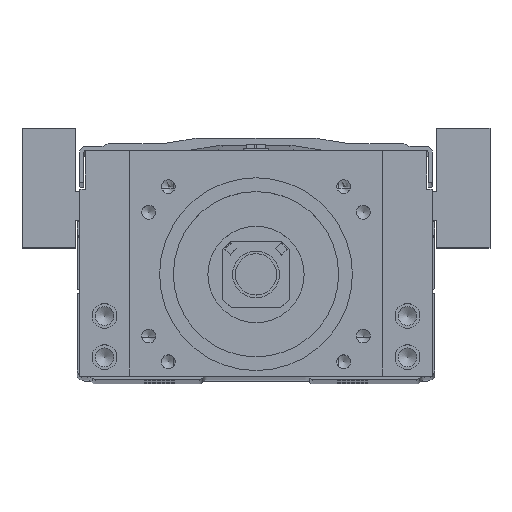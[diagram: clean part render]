
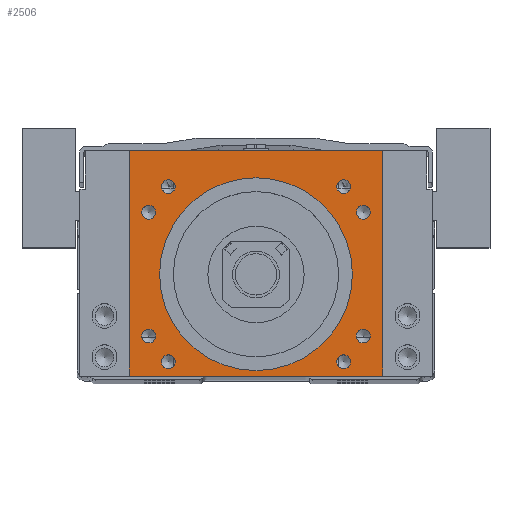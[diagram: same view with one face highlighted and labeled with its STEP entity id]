
A CAD part, top view. The second image highlights one B-rep face of the part: STEP entity #2506.
In plain terms, the highlighted planar face has unit normal (0, 0, 1).
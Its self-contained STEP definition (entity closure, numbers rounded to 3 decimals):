
#2506=ADVANCED_FACE('',(#7135,#7136,#7137,#7138,#7139,#7140,#7141,#7142,
#7143,#7144),#3620,.T.);
#3620=PLANE('',#19326);
#4271=LINE('',#26299,#5690);
#4343=LINE('',#26512,#5762);
#4348=LINE('',#26520,#5767);
#4353=LINE('',#26529,#5772);
#5690=VECTOR('',#21157,1.);
#5762=VECTOR('',#21313,1.);
#5767=VECTOR('',#21324,1.);
#5772=VECTOR('',#21331,1.);
#7135=FACE_BOUND('',#8159,.T.);
#7136=FACE_BOUND('',#8160,.T.);
#7137=FACE_BOUND('',#8161,.T.);
#7138=FACE_BOUND('',#8162,.T.);
#7139=FACE_BOUND('',#8163,.T.);
#7140=FACE_BOUND('',#8164,.T.);
#7141=FACE_BOUND('',#8165,.T.);
#7142=FACE_BOUND('',#8166,.T.);
#7143=FACE_BOUND('',#8167,.T.);
#7144=FACE_BOUND('',#8168,.T.);
#8159=EDGE_LOOP('',(#9932,#9933,#9934,#9935));
#8160=EDGE_LOOP('',(#9936));
#8161=EDGE_LOOP('',(#9937));
#8162=EDGE_LOOP('',(#9938));
#8163=EDGE_LOOP('',(#9939));
#8164=EDGE_LOOP('',(#9940));
#8165=EDGE_LOOP('',(#9941));
#8166=EDGE_LOOP('',(#9942));
#8167=EDGE_LOOP('',(#9943));
#8168=EDGE_LOOP('',(#9944));
#9932=ORIENTED_EDGE('',*,*,#16350,.T.);
#9933=ORIENTED_EDGE('',*,*,#16244,.T.);
#9934=ORIENTED_EDGE('',*,*,#16345,.T.);
#9935=ORIENTED_EDGE('',*,*,#16355,.T.);
#9936=ORIENTED_EDGE('',*,*,#16365,.F.);
#9937=ORIENTED_EDGE('',*,*,#16366,.T.);
#9938=ORIENTED_EDGE('',*,*,#16367,.T.);
#9939=ORIENTED_EDGE('',*,*,#16368,.F.);
#9940=ORIENTED_EDGE('',*,*,#16364,.F.);
#9941=ORIENTED_EDGE('',*,*,#16369,.T.);
#9942=ORIENTED_EDGE('',*,*,#16370,.T.);
#9943=ORIENTED_EDGE('',*,*,#16371,.T.);
#9944=ORIENTED_EDGE('',*,*,#16372,.T.);
#14465=VERTEX_POINT('',#26298);
#14466=VERTEX_POINT('',#26300);
#14555=VERTEX_POINT('',#26510);
#14557=VERTEX_POINT('',#26521);
#14563=VERTEX_POINT('',#26547);
#14564=VERTEX_POINT('',#26550);
#14565=VERTEX_POINT('',#26552);
#14566=VERTEX_POINT('',#26554);
#14567=VERTEX_POINT('',#26556);
#14568=VERTEX_POINT('',#26558);
#14569=VERTEX_POINT('',#26560);
#14570=VERTEX_POINT('',#26562);
#14571=VERTEX_POINT('',#26564);
#16244=EDGE_CURVE('',#14466,#14465,#4271,.T.);
#16345=EDGE_CURVE('',#14465,#14555,#4343,.T.);
#16350=EDGE_CURVE('',#14557,#14466,#4348,.T.);
#16355=EDGE_CURVE('',#14555,#14557,#4353,.T.);
#16364=EDGE_CURVE('',#14563,#14563,#18576,.T.);
#16365=EDGE_CURVE('',#14564,#14564,#18577,.T.);
#16366=EDGE_CURVE('',#14565,#14565,#18578,.T.);
#16367=EDGE_CURVE('',#14566,#14566,#18579,.T.);
#16368=EDGE_CURVE('',#14567,#14567,#18580,.T.);
#16369=EDGE_CURVE('',#14568,#14568,#18581,.T.);
#16370=EDGE_CURVE('',#14569,#14569,#18582,.T.);
#16371=EDGE_CURVE('',#14570,#14570,#18583,.T.);
#16372=EDGE_CURVE('',#14571,#14571,#18584,.T.);
#18576=CIRCLE('',#19316,35.015);
#18577=CIRCLE('',#19318,2.5);
#18578=CIRCLE('',#19319,2.5);
#18579=CIRCLE('',#19320,2.5);
#18580=CIRCLE('',#19321,2.5);
#18581=CIRCLE('',#19322,2.5);
#18582=CIRCLE('',#19323,2.5);
#18583=CIRCLE('',#19324,2.5);
#18584=CIRCLE('',#19325,2.5);
#19316=AXIS2_PLACEMENT_3D('',#26546,#21352,#21353);
#19318=AXIS2_PLACEMENT_3D('',#26549,#21356,#21357);
#19319=AXIS2_PLACEMENT_3D('',#26551,#21358,#21359);
#19320=AXIS2_PLACEMENT_3D('',#26553,#21360,#21361);
#19321=AXIS2_PLACEMENT_3D('',#26555,#21362,#21363);
#19322=AXIS2_PLACEMENT_3D('',#26557,#21364,#21365);
#19323=AXIS2_PLACEMENT_3D('',#26559,#21366,#21367);
#19324=AXIS2_PLACEMENT_3D('',#26561,#21368,#21369);
#19325=AXIS2_PLACEMENT_3D('',#26563,#21370,#21371);
#19326=AXIS2_PLACEMENT_3D('',#26565,#21372,#21373);
#21157=DIRECTION('',(-1.,0.,0.));
#21313=DIRECTION('',(0.,-1.,0.));
#21324=DIRECTION('',(0.,1.,0.));
#21331=DIRECTION('',(1.,0.,0.));
#21352=DIRECTION('',(0.,0.,1.));
#21353=DIRECTION('',(1.,0.,0.));
#21356=DIRECTION('',(0.,0.,1.));
#21357=DIRECTION('',(-1.,0.,0.));
#21358=DIRECTION('',(0.,0.,-1.));
#21359=DIRECTION('',(1.,0.,0.));
#21360=DIRECTION('',(0.,0.,-1.));
#21361=DIRECTION('',(1.,0.,0.));
#21362=DIRECTION('',(0.,0.,1.));
#21363=DIRECTION('',(-1.,0.,0.));
#21364=DIRECTION('',(0.,0.,-1.));
#21365=DIRECTION('',(1.,0.,0.));
#21366=DIRECTION('',(0.,0.,-1.));
#21367=DIRECTION('',(1.,0.,0.));
#21368=DIRECTION('',(0.,0.,-1.));
#21369=DIRECTION('',(1.,0.,0.));
#21370=DIRECTION('',(0.,0.,-1.));
#21371=DIRECTION('',(1.,0.,0.));
#21372=DIRECTION('',(0.,0.,1.));
#21373=DIRECTION('',(-1.,0.,0.));
#26298=CARTESIAN_POINT('',(-46.,83.,100.));
#26299=CARTESIAN_POINT('',(0.,83.,100.));
#26300=CARTESIAN_POINT('',(46.,83.,100.));
#26510=CARTESIAN_POINT('',(-46.,1.,100.));
#26512=CARTESIAN_POINT('',(-46.,38.,100.));
#26520=CARTESIAN_POINT('',(46.,38.,100.));
#26521=CARTESIAN_POINT('',(46.,1.,100.));
#26529=CARTESIAN_POINT('',(0.,1.,100.));
#26546=CARTESIAN_POINT('',(0.,38.,100.));
#26547=CARTESIAN_POINT('',(35.015,38.,100.));
#26549=CARTESIAN_POINT('',(-38.971,15.5,100.));
#26550=CARTESIAN_POINT('',(-41.471,15.5,100.));
#26551=CARTESIAN_POINT('',(38.971,60.5,100.));
#26552=CARTESIAN_POINT('',(41.471,60.5,100.));
#26553=CARTESIAN_POINT('',(38.971,15.5,100.));
#26554=CARTESIAN_POINT('',(41.471,15.5,100.));
#26555=CARTESIAN_POINT('',(-38.971,60.5,100.));
#26556=CARTESIAN_POINT('',(-41.471,60.5,100.));
#26557=CARTESIAN_POINT('',(-31.82,69.82,100.));
#26558=CARTESIAN_POINT('',(-29.32,69.82,100.));
#26559=CARTESIAN_POINT('',(-31.82,6.18,100.));
#26560=CARTESIAN_POINT('',(-29.32,6.18,100.));
#26561=CARTESIAN_POINT('',(31.82,6.18,100.));
#26562=CARTESIAN_POINT('',(34.32,6.18,100.));
#26563=CARTESIAN_POINT('',(31.82,69.82,100.));
#26564=CARTESIAN_POINT('',(34.32,69.82,100.));
#26565=CARTESIAN_POINT('',(0.,38.,100.));
